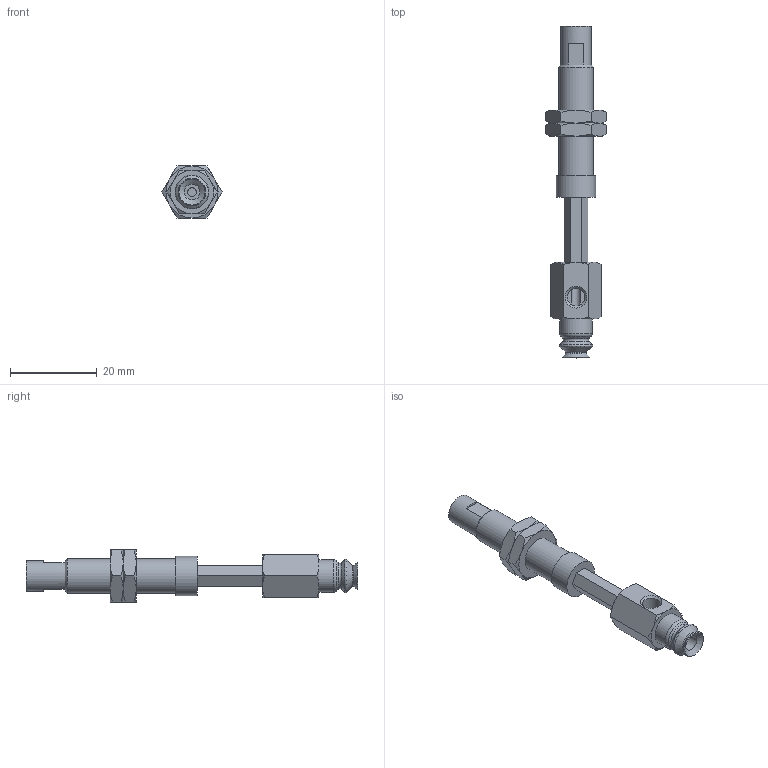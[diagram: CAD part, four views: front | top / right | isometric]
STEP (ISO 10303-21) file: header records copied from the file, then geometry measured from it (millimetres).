
FILE_DESCRIPTION(('STEP AP203'),'1');
FILE_NAME('.stp','2025-04-24T05:31:52',(' '),(' '),'Spatial InterOp 3D',' ',' ');
FILE_SCHEMA(('CONFIG_CONTROL_DESIGN'));
Length unit declared in the file: millimetre
Products named in the file (6): BNABPJYH-6-15-※; CONNECTOR_H-6-15; NAPJH-6-15-NUT; NAPJTH-6-15-FBODY; NAPJTH-6-15-MBODY; BPJG-6-※
Assembly tree (6 placements, depth 2):
  BNABPJYH-6-15-※
    CONNECTOR_H-6-15
    NAPJH-6-15-NUT  x2
    NAPJTH-6-15-FBODY
    NAPJTH-6-15-MBODY
    BPJG-6-※
Bounding box: 13.86 x 76.5 x 12 mm (x, y, z)
Volume: 3838.3 mm3; surface area: 4761.2 mm2
Topology: 6 solids, 6 shells, 141 faces, 310 edges, 188 vertices
Faces by surface type: plane 61, cone 54, cylinder 15, torus 11
Full cylindrical faces by diameter (mm): 2 x1, 3.64 x1, 4 x2, 4.134 x2, 5 x1, 6 x2, 7 x1, 7.188 x2, 7.5 x1, 8 x1, 9 x1
Entity records: 3484 total; most frequent: CARTESIAN_POINT 833, DIRECTION 488, ORIENTED_EDGE 422, EDGE_CURVE 211, AXIS2_PLACEMENT_3D 206, EDGE_LOOP 174, VERTEX_POINT 149, FACE_OUTER_BOUND 143
